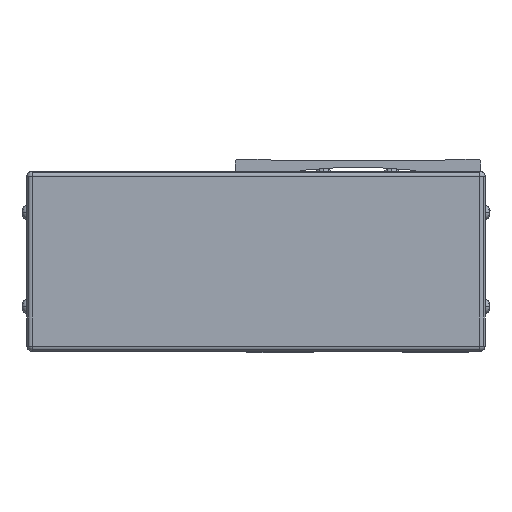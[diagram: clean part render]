
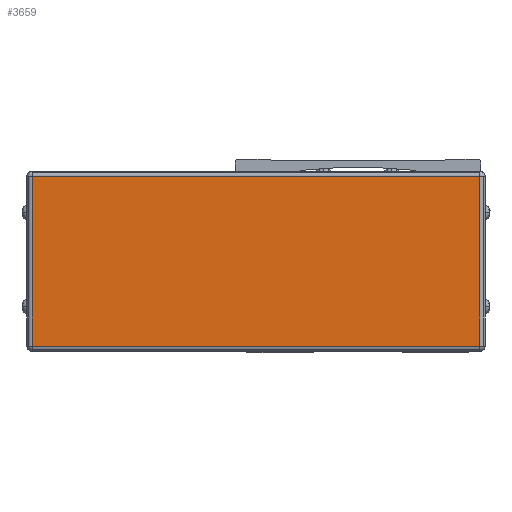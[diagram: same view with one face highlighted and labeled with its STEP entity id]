
A CAD part, front view. The second image highlights one B-rep face of the part: STEP entity #3659.
In plain terms, the highlighted planar face has unit normal (0, -1, 0).
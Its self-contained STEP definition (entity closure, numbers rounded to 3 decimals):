
#3659=ADVANCED_FACE('',(#8147),#8148,.F.);
#8147=FACE_OUTER_BOUND('',#14674,.T.);
#8148=PLANE('',#14675);
#14674=EDGE_LOOP('',(#25864,#25865,#25866,#25867));
#14675=AXIS2_PLACEMENT_3D('',#25868,#25869,#25870);
#25864=ORIENTED_EDGE('',*,*,#35354,.T.);
#25865=ORIENTED_EDGE('',*,*,#38237,.T.);
#25866=ORIENTED_EDGE('',*,*,#35332,.T.);
#25867=ORIENTED_EDGE('',*,*,#38238,.T.);
#25868=CARTESIAN_POINT('',(-39.,86.222,-42.5));
#25869=DIRECTION('',(0.0,1.0,-0.0));
#25870=DIRECTION('',(-1.0,0.0,0.0));
#35332=EDGE_CURVE('',#42788,#42786,#42789,.T.);
#35354=EDGE_CURVE('',#42824,#42822,#42825,.T.);
#38237=EDGE_CURVE('',#42822,#42788,#47209,.T.);
#38238=EDGE_CURVE('',#42786,#42824,#47210,.T.);
#42786=VERTEX_POINT('',#53328);
#42788=VERTEX_POINT('',#53330);
#42789=LINE('',#53331,#53332);
#42822=VERTEX_POINT('',#53377);
#42824=VERTEX_POINT('',#53379);
#42825=LINE('',#53380,#53381);
#47209=LINE('',#60293,#60294);
#47210=LINE('',#60295,#60296);
#53328=CARTESIAN_POINT('',(-124.7,86.222,24.5));
#53330=CARTESIAN_POINT('',(46.7,86.222,24.5));
#53331=CARTESIAN_POINT('',(-39.,86.222,24.5));
#53332=VECTOR('',#65272,10.0);
#53377=CARTESIAN_POINT('',(46.7,86.222,-40.5));
#53379=CARTESIAN_POINT('',(-124.7,86.222,-40.5));
#53380=CARTESIAN_POINT('',(-39.,86.222,-40.5));
#53381=VECTOR('',#65297,10.0);
#60293=CARTESIAN_POINT('',(46.7,86.222,-42.5));
#60294=VECTOR('',#68778,10.0);
#60295=CARTESIAN_POINT('',(-124.7,86.222,-42.5));
#60296=VECTOR('',#68779,10.0);
#65272=DIRECTION('',(-1.0,0.0,0.0));
#65297=DIRECTION('',(1.0,0.0,0.0));
#68778=DIRECTION('',(0.0,0.0,1.0));
#68779=DIRECTION('',(-0.0,0.0,-1.0));
